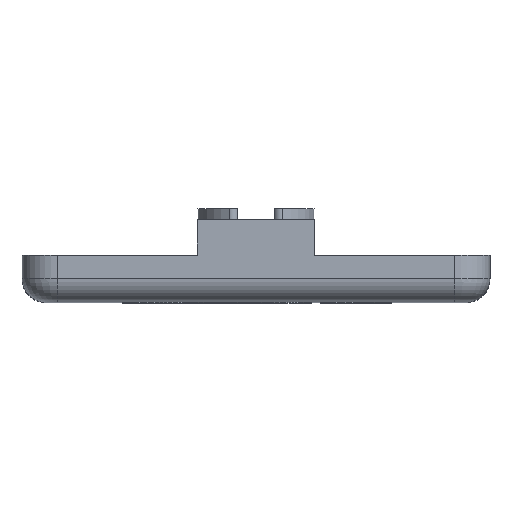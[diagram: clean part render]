
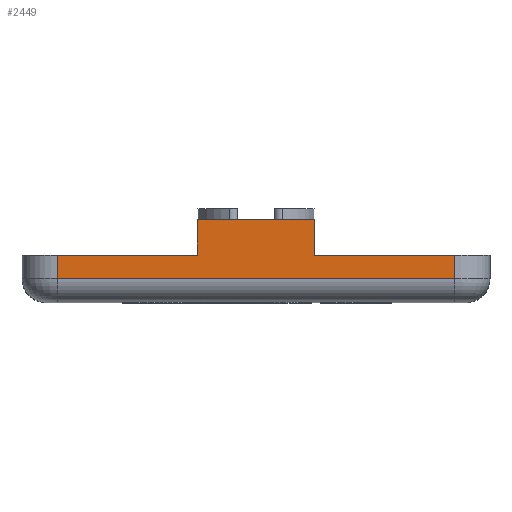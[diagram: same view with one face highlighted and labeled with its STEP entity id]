
A CAD part, top view. The second image highlights one B-rep face of the part: STEP entity #2449.
In plain terms, the highlighted planar face has unit normal (0, 0, 1).
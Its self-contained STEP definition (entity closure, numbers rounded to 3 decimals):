
#89 = ORIENTED_EDGE ( 'NONE', *, *, #6731, .F. ) ;
#93 = ORIENTED_EDGE ( 'NONE', *, *, #1737, .F. ) ;
#152 = CARTESIAN_POINT ( 'NONE',  ( -5., 7., 20. ) ) ;
#187 = LINE ( 'NONE', #2641, #1773 ) ;
#222 = EDGE_CURVE ( 'NONE', #1618, #4572, #2497, .T. ) ;
#323 = LINE ( 'NONE', #152, #6529 ) ;
#367 = VERTEX_POINT ( 'NONE', #1512 ) ;
#496 = ORIENTED_EDGE ( 'NONE', *, *, #222, .F. ) ;
#532 = CARTESIAN_POINT ( 'NONE',  ( 17., 4., 20. ) ) ;
#613 = DIRECTION ( 'NONE',  ( 1., 0., 0. ) ) ;
#614 = VECTOR ( 'NONE', #3522, 1000. ) ;
#685 = EDGE_CURVE ( 'NONE', #1618, #367, #5213, .T. ) ;
#846 = PLANE ( 'NONE',  #1045 ) ;
#1045 = AXIS2_PLACEMENT_3D ( 'NONE', #5047, #2675, #6904 ) ;
#1483 = CARTESIAN_POINT ( 'NONE',  ( -5., 7., 20. ) ) ;
#1512 = CARTESIAN_POINT ( 'NONE',  ( -17., 2., 20. ) ) ;
#1615 = FACE_OUTER_BOUND ( 'NONE', #2580, .T. ) ;
#1618 = VERTEX_POINT ( 'NONE', #2493 ) ;
#1737 = EDGE_CURVE ( 'NONE', #2049, #7775, #323, .T. ) ;
#1773 = VECTOR ( 'NONE', #3226, 1000. ) ;
#1927 = CARTESIAN_POINT ( 'NONE',  ( -17., 4., 20. ) ) ;
#2049 = VERTEX_POINT ( 'NONE', #6525 ) ;
#2083 = EDGE_CURVE ( 'NONE', #4010, #3729, #6527, .T. ) ;
#2449 = ADVANCED_FACE ( 'NONE', ( #1615 ), #846, .F. ) ;
#2493 = CARTESIAN_POINT ( 'NONE',  ( -17., 4., 20. ) ) ;
#2497 = LINE ( 'NONE', #1927, #3708 ) ;
#2580 = EDGE_LOOP ( 'NONE', ( #3646, #6494, #3536, #5574, #89, #93, #7579, #496 ) ) ;
#2641 = CARTESIAN_POINT ( 'NONE',  ( 17., 4., 20. ) ) ;
#2675 = DIRECTION ( 'NONE',  ( 0., 0., -1. ) ) ;
#3159 = CARTESIAN_POINT ( 'NONE',  ( 5., 7., 20. ) ) ;
#3226 = DIRECTION ( 'NONE',  ( 0., -1., 0. ) ) ;
#3517 = CARTESIAN_POINT ( 'NONE',  ( 5., 7., 20. ) ) ;
#3522 = DIRECTION ( 'NONE',  ( 0., -1., 0. ) ) ;
#3536 = ORIENTED_EDGE ( 'NONE', *, *, #4888, .F. ) ;
#3554 = VECTOR ( 'NONE', #4743, 1000. ) ;
#3646 = ORIENTED_EDGE ( 'NONE', *, *, #685, .T. ) ;
#3708 = VECTOR ( 'NONE', #6146, 1000. ) ;
#3729 = VERTEX_POINT ( 'NONE', #532 ) ;
#3740 = LINE ( 'NONE', #3517, #3554 ) ;
#3832 = CARTESIAN_POINT ( 'NONE',  ( -17., 2., 20. ) ) ;
#4010 = VERTEX_POINT ( 'NONE', #5636 ) ;
#4133 = EDGE_CURVE ( 'NONE', #2049, #4572, #7708, .T. ) ;
#4456 = DIRECTION ( 'NONE',  ( 1., 0., 0. ) ) ;
#4501 = DIRECTION ( 'NONE',  ( 0., -1., 0. ) ) ;
#4572 = VERTEX_POINT ( 'NONE', #4670 ) ;
#4670 = CARTESIAN_POINT ( 'NONE',  ( -5., 4., 20. ) ) ;
#4743 = DIRECTION ( 'NONE',  ( 0., -1., 0. ) ) ;
#4799 = LINE ( 'NONE', #3832, #6035 ) ;
#4888 = EDGE_CURVE ( 'NONE', #3729, #5681, #187, .T. ) ;
#4952 = DIRECTION ( 'NONE',  ( 1., 0., 0. ) ) ;
#5047 = CARTESIAN_POINT ( 'NONE',  ( -17., 4., 20. ) ) ;
#5213 = LINE ( 'NONE', #7140, #614 ) ;
#5297 = CARTESIAN_POINT ( 'NONE',  ( -17., 4., 20. ) ) ;
#5574 = ORIENTED_EDGE ( 'NONE', *, *, #2083, .F. ) ;
#5636 = CARTESIAN_POINT ( 'NONE',  ( 5., 4., 20. ) ) ;
#5681 = VERTEX_POINT ( 'NONE', #7623 ) ;
#5816 = VECTOR ( 'NONE', #4501, 1000. ) ;
#6035 = VECTOR ( 'NONE', #4456, 1000. ) ;
#6146 = DIRECTION ( 'NONE',  ( 1., 0., 0. ) ) ;
#6296 = EDGE_CURVE ( 'NONE', #367, #5681, #4799, .T. ) ;
#6494 = ORIENTED_EDGE ( 'NONE', *, *, #6296, .T. ) ;
#6525 = CARTESIAN_POINT ( 'NONE',  ( -5., 7., 20. ) ) ;
#6527 = LINE ( 'NONE', #5297, #7736 ) ;
#6529 = VECTOR ( 'NONE', #4952, 1000. ) ;
#6731 = EDGE_CURVE ( 'NONE', #7775, #4010, #3740, .T. ) ;
#6904 = DIRECTION ( 'NONE',  ( -1., 0., 0. ) ) ;
#7140 = CARTESIAN_POINT ( 'NONE',  ( -17., 4., 20. ) ) ;
#7579 = ORIENTED_EDGE ( 'NONE', *, *, #4133, .T. ) ;
#7623 = CARTESIAN_POINT ( 'NONE',  ( 17., 2., 20. ) ) ;
#7708 = LINE ( 'NONE', #1483, #5816 ) ;
#7736 = VECTOR ( 'NONE', #613, 1000. ) ;
#7775 = VERTEX_POINT ( 'NONE', #3159 ) ;
